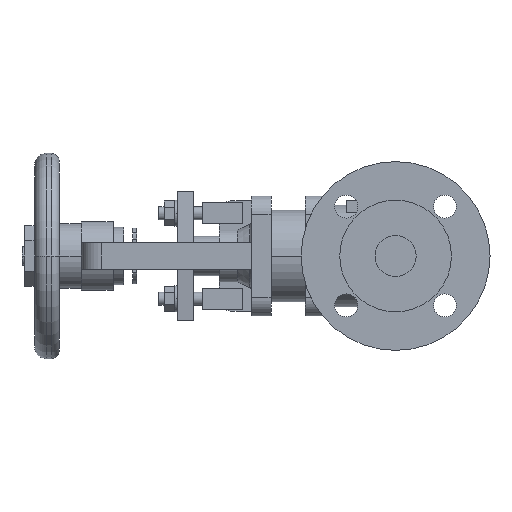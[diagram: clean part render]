
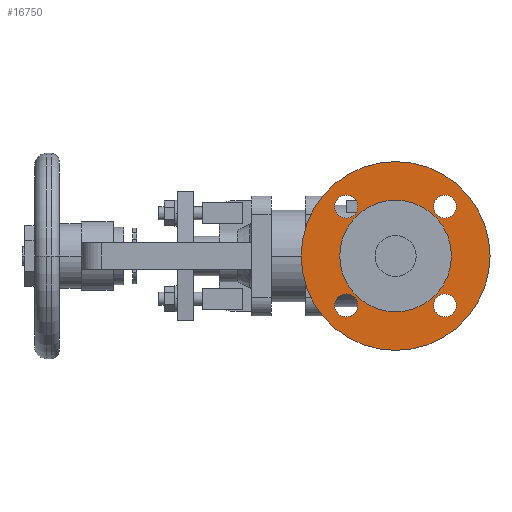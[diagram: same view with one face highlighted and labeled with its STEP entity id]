
A CAD part, left-side view. The second image highlights one B-rep face of the part: STEP entity #16750.
In plain terms, the highlighted planar face has unit normal (-1, 0, 0).
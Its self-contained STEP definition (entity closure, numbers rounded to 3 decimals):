
#8060=CARTESIAN_POINT('',(2.,0.,-57.5));
#8070=VERTEX_POINT('',#8060);
#8230=CARTESIAN_POINT('',(2.,0.,57.5));
#8240=VERTEX_POINT('',#8230);
#8270=CARTESIAN_POINT('',(2.,0.,0.));
#8280=DIRECTION('',(1.,0.,0.));
#8290=DIRECTION('',(0.,0.,-1.));
#8300=AXIS2_PLACEMENT_3D('',#8270,#8280,#8290);
#8310=CIRCLE('',#8300,57.5);
#8320=CARTESIAN_POINT('',(2.,57.5,0.));
#8330=VERTEX_POINT('',#8320);
#8340=EDGE_CURVE('',#8330,#8240,#8310,.T.);
#8360=EDGE_CURVE('',#8070,#8330,#8310,.T.);
#8590=CARTESIAN_POINT('',(2.,30.052,-23.052));
#8600=VERTEX_POINT('',#8590);
#8630=CARTESIAN_POINT('',(2.,30.052,-30.052));
#8640=DIRECTION('',(-1.,0.,0.));
#8650=DIRECTION('',(0.,0.,-1.));
#8660=AXIS2_PLACEMENT_3D('',#8630,#8640,#8650);
#8670=CIRCLE('',#8660,7.);
#8680=CARTESIAN_POINT('',(2.,30.052,-37.052));
#8690=VERTEX_POINT('',#8680);
#8700=EDGE_CURVE('',#8690,#8600,#8670,.T.);
#9080=CARTESIAN_POINT('',(2.,-30.052,-37.052));
#9090=VERTEX_POINT('',#9080);
#9120=CARTESIAN_POINT('',(2.,-30.052,-30.052));
#9130=DIRECTION('',(-1.,0.,0.));
#9140=DIRECTION('',(0.,0.,-1.));
#9150=AXIS2_PLACEMENT_3D('',#9120,#9130,#9140);
#9160=CIRCLE('',#9150,7.);
#9170=CARTESIAN_POINT('',(2.,-30.052,-23.052));
#9180=VERTEX_POINT('',#9170);
#9190=EDGE_CURVE('',#9180,#9090,#9160,.T.);
#9570=CARTESIAN_POINT('',(2.,30.052,37.052));
#9580=VERTEX_POINT('',#9570);
#9610=CARTESIAN_POINT('',(2.,30.052,30.052));
#9620=DIRECTION('',(-1.,0.,0.));
#9630=DIRECTION('',(0.,0.,-1.));
#9640=AXIS2_PLACEMENT_3D('',#9610,#9620,#9630);
#9650=CIRCLE('',#9640,7.);
#9660=CARTESIAN_POINT('',(2.,30.052,23.052));
#9670=VERTEX_POINT('',#9660);
#9680=EDGE_CURVE('',#9670,#9580,#9650,.T.);
#10060=CARTESIAN_POINT('',(2.,-30.052,37.052));
#10070=VERTEX_POINT('',#10060);
#10100=CARTESIAN_POINT('',(2.,-30.052,30.052));
#10110=DIRECTION('',(-1.,0.,0.));
#10120=DIRECTION('',(0.,0.,-1.));
#10130=AXIS2_PLACEMENT_3D('',#10100,#10110,#10120);
#10140=CIRCLE('',#10130,7.);
#10150=CARTESIAN_POINT('',(2.,-30.052,23.052));
#10160=VERTEX_POINT('',#10150);
#10170=EDGE_CURVE('',#10160,#10070,#10140,.T.);
#10550=CARTESIAN_POINT('',(2.,-34.,0.));
#10560=VERTEX_POINT('',#10550);
#10590=CARTESIAN_POINT('',(2.,0.,0.));
#10600=DIRECTION('',(-1.,0.,0.));
#10610=DIRECTION('',(0.,1.,0.));
#10620=AXIS2_PLACEMENT_3D('',#10590,#10600,#10610);
#10630=CIRCLE('',#10620,34.);
#10640=CARTESIAN_POINT('',(2.,34.,0.));
#10650=VERTEX_POINT('',#10640);
#10660=EDGE_CURVE('',#10650,#10560,#10630,.T.);
#16390=CARTESIAN_POINT('',(2.,45.75,0.));
#16400=DIRECTION('',(1.,0.,0.));
#16410=DIRECTION('',(0.,-1.,0.));
#16420=AXIS2_PLACEMENT_3D('',#16390,#16400,#16410);
#16430=PLANE('',#16420);
#16440=EDGE_CURVE('',#10560,#10650,#10630,.T.);
#16450=ORIENTED_EDGE('',*,*,#16440,.F.);
#16460=ORIENTED_EDGE('',*,*,#10660,.F.);
#16470=EDGE_LOOP('',(#16460,#16450));
#16480=FACE_BOUND('',#16470,.T.);
#16490=ORIENTED_EDGE('',*,*,#8340,.F.);
#16500=EDGE_CURVE('',#8240,#8070,#8310,.T.);
#16510=ORIENTED_EDGE('',*,*,#16500,.F.);
#16520=ORIENTED_EDGE('',*,*,#8360,.F.);
#16530=EDGE_LOOP('',(#16520,#16510,#16490));
#16540=FACE_OUTER_BOUND('',#16530,.T.);
#16550=EDGE_CURVE('',#8600,#8690,#8670,.T.);
#16560=ORIENTED_EDGE('',*,*,#16550,.F.);
#16570=ORIENTED_EDGE('',*,*,#8700,.F.);
#16580=EDGE_LOOP('',(#16570,#16560));
#16590=FACE_BOUND('',#16580,.T.);
#16600=EDGE_CURVE('',#9090,#9180,#9160,.T.);
#16610=ORIENTED_EDGE('',*,*,#16600,.F.);
#16620=ORIENTED_EDGE('',*,*,#9190,.F.);
#16630=EDGE_LOOP('',(#16620,#16610));
#16640=FACE_BOUND('',#16630,.T.);
#16650=EDGE_CURVE('',#9580,#9670,#9650,.T.);
#16660=ORIENTED_EDGE('',*,*,#16650,.F.);
#16670=ORIENTED_EDGE('',*,*,#9680,.F.);
#16680=EDGE_LOOP('',(#16670,#16660));
#16690=FACE_BOUND('',#16680,.T.);
#16700=ORIENTED_EDGE('',*,*,#10170,.F.);
#16710=EDGE_CURVE('',#10070,#10160,#10140,.T.);
#16720=ORIENTED_EDGE('',*,*,#16710,.F.);
#16730=EDGE_LOOP('',(#16720,#16700));
#16740=FACE_BOUND('',#16730,.T.);
#16750=ADVANCED_FACE('',(#16480,#16540,#16590,#16640,#16690,#16740),
#16430,.F.);
